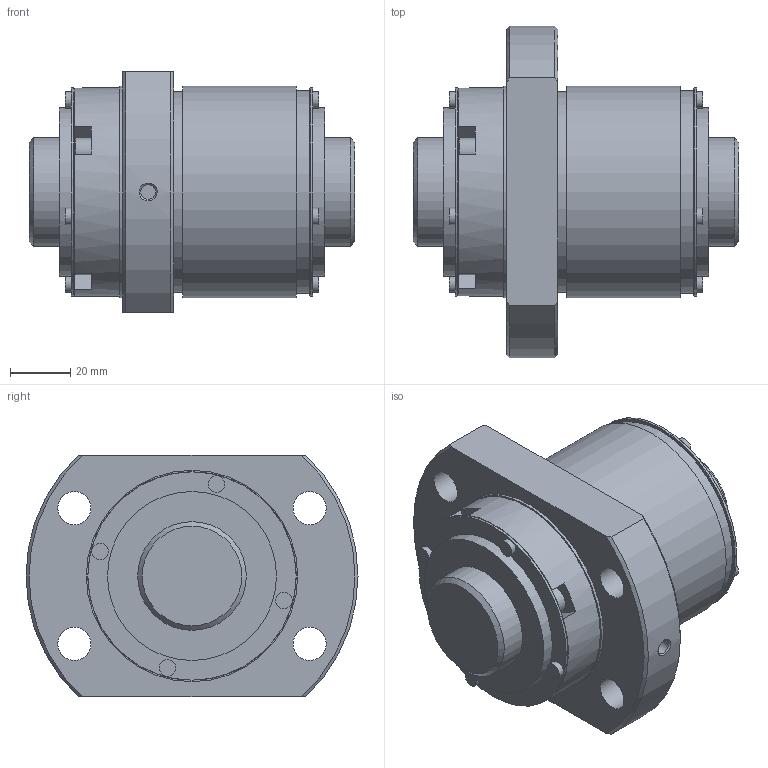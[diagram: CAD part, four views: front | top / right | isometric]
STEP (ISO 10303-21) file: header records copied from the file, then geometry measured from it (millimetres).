
FILE_DESCRIPTION(/* description */ ('STEP AP203'),/* implementation_level */ '2;1');
FILE_NAME(/* name */ 'BLK3620-5.6ZZG1+108LC3_0_1300',/* time_stamp */ '2025-01-16T07:04:57+01:00',/* author */ ('License CC BY-ND 4.0'),/* organization */ ('CADENAS'),/* preprocessor_version */ 'ST-DEVELOPER v19.3',/* originating_system */ 'PARTsolutions',/* authorisation */ ' ');
FILE_SCHEMA (('CONFIG_CONTROL_DESIGN'));
Length unit declared in the file: millimetre
Products named in the file (3): BLK3620-5.6ZZG1+108LC3_0_1300; ZZ0130BLK3620-5.60Shaft; RR0130BLK3620-5.6Nut
Assembly tree (2 placements, depth 2):
  BLK3620-5.6ZZG1+108LC3_0_1300
    ZZ0130BLK3620-5.60Shaft
    RR0130BLK3620-5.6Nut
Bounding box: 108 x 110 x 80 mm (x, y, z)
Volume: 404319.9 mm3; surface area: 64387 mm2
Topology: 2 solids, 2 shells, 154 faces, 343 edges, 214 vertices
Faces by surface type: plane 95, cylinder 38, cone 17, torus 4
Full cylindrical faces by diameter (mm): 4.5 x4, 4.917 x1, 5.5 x8, 9.45 x4, 11 x4, 36 x2, 56 x2, 66.5 x1, 67 x1, 69 x3, 70 x2
Entity records: 4036 total; most frequent: CARTESIAN_POINT 769, DIRECTION 686, ORIENTED_EDGE 558, AXIS2_PLACEMENT_3D 283, EDGE_CURVE 279, FACE_BOUND 238, EDGE_LOOP 234, VERTEX_POINT 203
